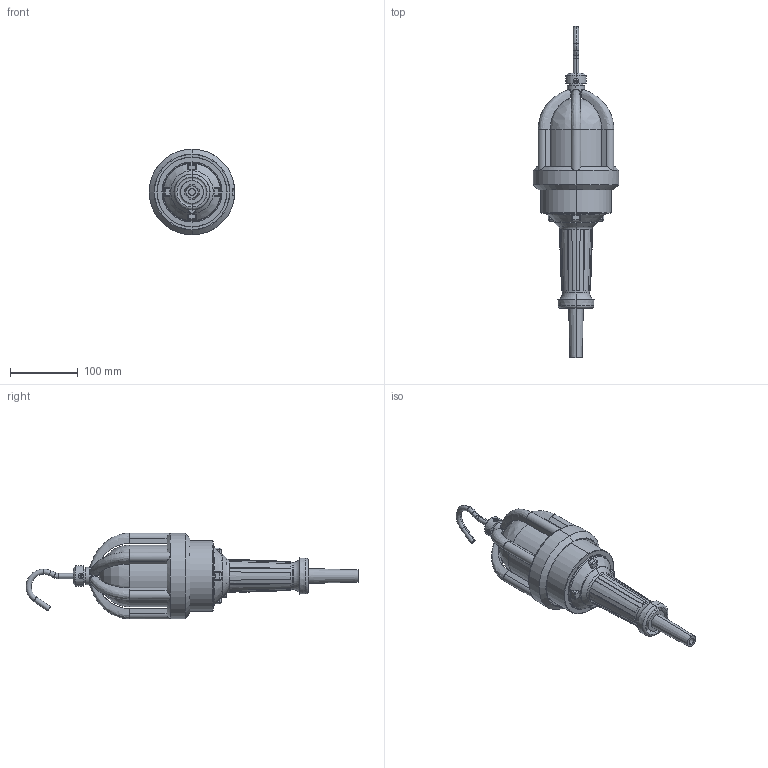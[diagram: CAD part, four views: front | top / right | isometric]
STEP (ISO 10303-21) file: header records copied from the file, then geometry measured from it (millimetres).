
FILE_DESCRIPTION (( 'STEP AP214' ), '1' );
FILE_NAME ('EPL-120V-DW.STEP', '2016-02-12T22:28:09', ( '' ), ( '' ), 'SwSTEP 2.0', 'SolidWorks 2016', '' );
FILE_SCHEMA (( 'AUTOMOTIVE_DESIGN' ));
Length unit declared in the file: inch
Products named in the file (2): EPL-120V-DW Part_No Cord; EPL-120V-DW
Assembly tree (1 placements, depth 2):
  EPL-120V-DW
    EPL-120V-DW Part_No Cord
Bounding box: 126.87 x 491.66 x 126.87 mm (x, y, z)
Volume: 1678619.8 mm3; surface area: 164880.2 mm2
Topology: 1 solids, 1 shells, 266 faces, 663 edges, 404 vertices
Faces by surface type: plane 94, cylinder 75, cone 33, sphere 26, bspline 20, torus 18
Entity records: 11969 total; most frequent: CARTESIAN_POINT 5757, ORIENTED_EDGE 1306, DIRECTION 1251, EDGE_CURVE 653, AXIS2_PLACEMENT_3D 530, VERTEX_POINT 404, EDGE_LOOP 291, CIRCLE 280
